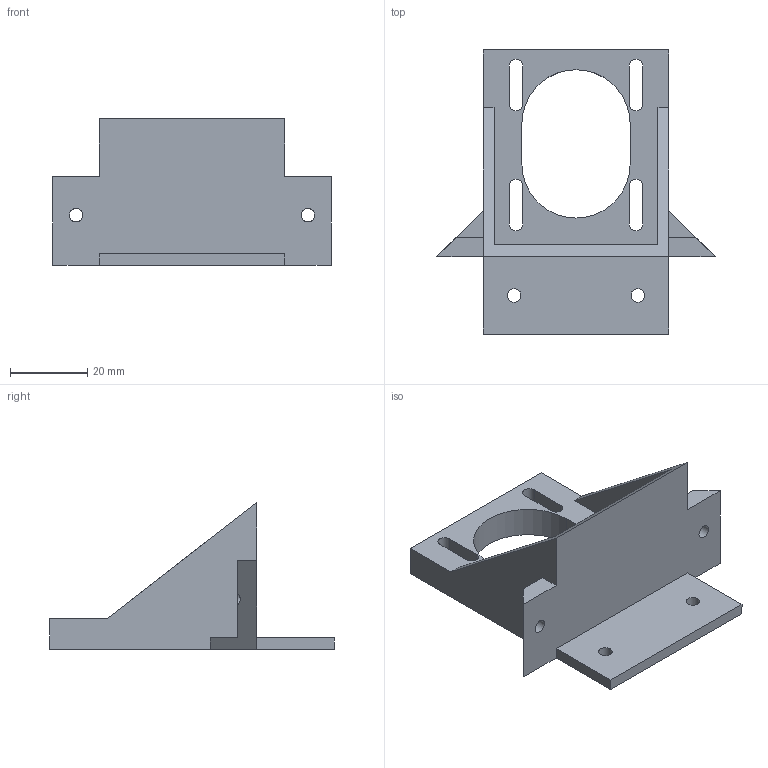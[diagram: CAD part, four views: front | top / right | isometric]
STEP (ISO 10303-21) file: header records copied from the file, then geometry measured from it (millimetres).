
FILE_DESCRIPTION(/* description */ (''),/* implementation_level */ '2;1');
FILE_NAME(/* name */ 'Z - Motor Mount v2.step',/* time_stamp */ '2023-03-23T06:42:45-06:00',/* author */ (''),/* organization */ (''),/* preprocessor_version */ 'ST-DEVELOPER v19.2',/* originating_system */ 'Autodesk Translation Framework v11.17.0.187',/* authorisation */ '');
FILE_SCHEMA (('AUTOMOTIVE_DESIGN { 1 0 10303 214 3 1 1 }'));
Length unit declared in the file: millimetre
Products named in the file (2): Z - Motor Mount; Z Motor Mount v1
Assembly tree (1 placements, depth 2):
  Z - Motor Mount
    Z Motor Mount v1
Bounding box: 72 x 73.5 x 38 mm (x, y, z)
Volume: 23850.4 mm3; surface area: 14658.5 mm2
Topology: 1 solids, 1 shells, 46 faces, 138 edges, 92 vertices
Faces by surface type: plane 32, cylinder 14
Full cylindrical faces by diameter (mm): 3.5 x4
Entity records: 1650 total; most frequent: CARTESIAN_POINT 279, ORIENTED_EDGE 276, DIRECTION 268, EDGE_CURVE 138, LINE 106, VECTOR 106, VERTEX_POINT 92, AXIS2_PLACEMENT_3D 81
